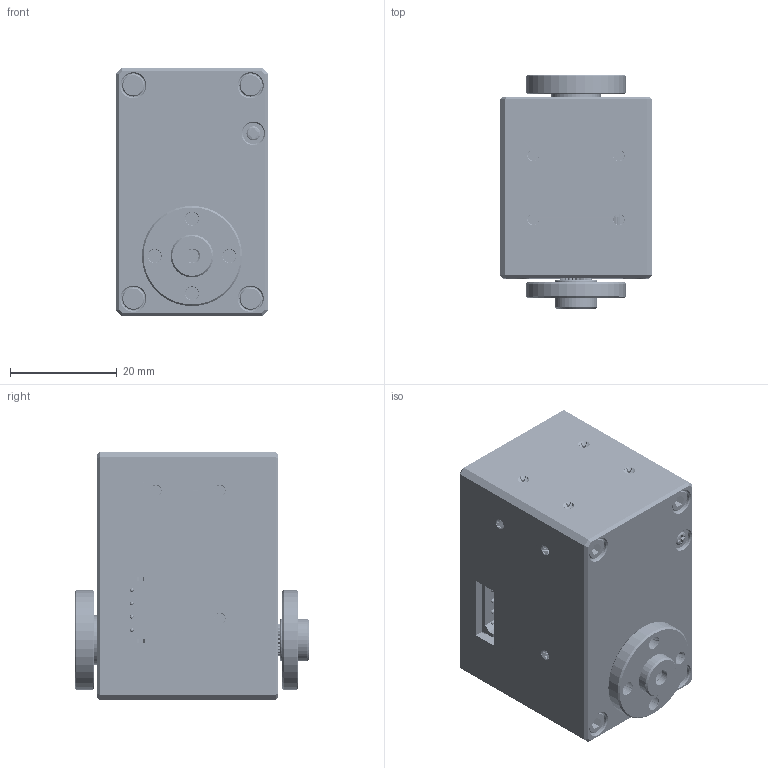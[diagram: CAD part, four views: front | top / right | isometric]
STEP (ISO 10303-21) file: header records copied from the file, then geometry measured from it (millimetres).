
FILE_DESCRIPTION(/* description */ (''),/* implementation_level */ '2;1');
FILE_NAME(/* name */ 'RSBL45-24.step',/* time_stamp */ '2024-04-30T11:36:20+08:00',/* author */ (''),/* organization */ (''),/* preprocessor_version */ 'ST-DEVELOPER v20',/* originating_system */ 'Autodesk Translation Framework v12.20.1.177',/* authorisation */ '');
FILE_SCHEMA (('AUTOMOTIVE_DESIGN { 1 0 10303 214 3 1 1 }'));
Products named in the file (19): SM45BL-20190920; SM40_DS-20180327_ASM_ASM; SM40_ASM_13_ASM_ASM; MIDDLECAB_1_2; TOP_5; OUTPUTGEAR_1; MR128ZZ_1; DANWEIQI_1; XITIE_1; CHOUCHENG_1; PCB-2_1; MF85ZZ_2; FUZHU01_3; DANPAN_1; NEW4PIN_3_28_1_1; M2-4LOUSI_1; BOTTOM-1_16; M25-12SCREW_1; FK-AP-031-25T-20180104_9
Assembly tree (30 placements, depth 4):
  SM45BL-20190920
    SM40_DS-20180327_ASM_ASM
      SM40_ASM_13_ASM_ASM
        MIDDLECAB_1_2
        TOP_5
        OUTPUTGEAR_1
        MR128ZZ_1
        DANWEIQI_1
        XITIE_1
        CHOUCHENG_1
        PCB-2_1
        MF85ZZ_2
        FUZHU01_3
        DANPAN_1
        M2-4LOUSI_1  x5
        NEW4PIN_3_28_1_1  x2
        BOTTOM-1_16
        M25-12SCREW_1  x8
        FK-AP-031-25T-20180104_9
Bounding box: 28.5 x 43.8 x 46.5 mm (x, y, z)
Volume: 22590.9 mm3; surface area: 27429.5 mm2
Topology: 28 solids, 28 shells, 3094 faces, 8519 edges, 5572 vertices
Faces by surface type: cylinder 1568, bspline 770, plane 694, cone 52, torus 10
Full cylindrical faces by diameter (mm): 0.7 x16, 0.8 x3, 1.5 x19, 2 x597, 2.1 x1, 2.5 x474, 3.1 x1, 3.5 x5, 4 x3, 4.2 x8, 4.5 x8, 5 x2, 6 x5, 6.1 x1, 6.5 x1, 6.7 x1, 7 x1, 7.5 x1, 8 x5, 8.02 x1, 8.5 x1, 9.2 x1, 9.8 x1, 10 x4, 12 x3, 15 x1, 18.8 x2
Entity records: 259044 total; most frequent: CARTESIAN_POINT 207297, ORIENTED_EDGE 12094, DIRECTION 7909, EDGE_CURVE 6047, VERTEX_POINT 3962, AXIS2_PLACEMENT_3D 2725, B_SPLINE_CURVE_WITH_KNOTS 2471, LINE 2459
